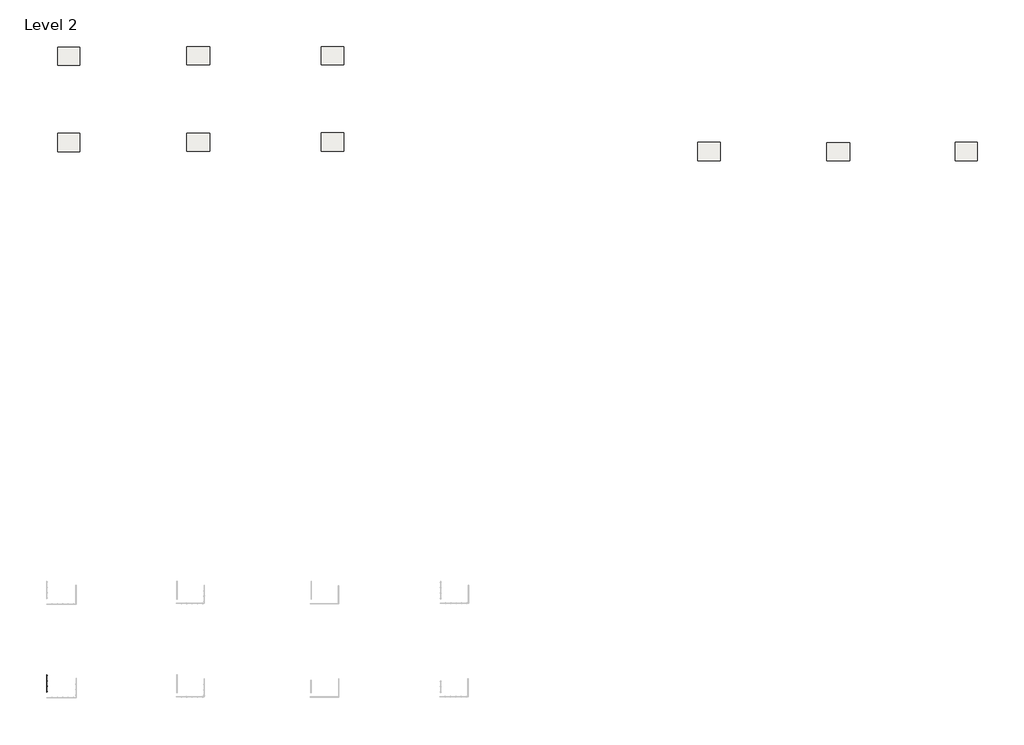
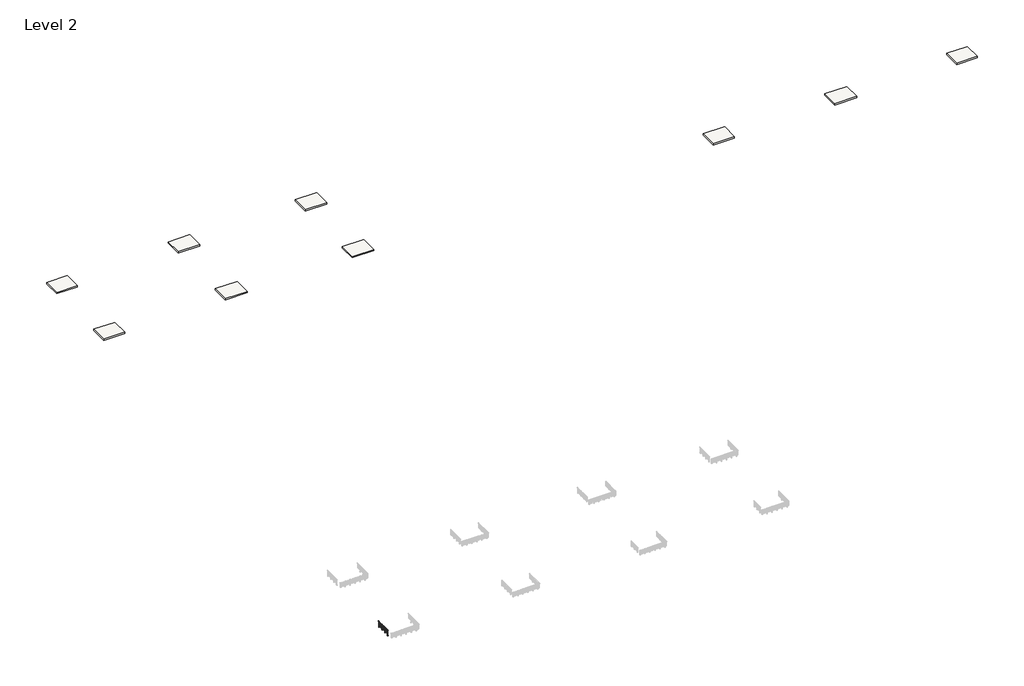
# One storey, part 1 of 31: 9 slabs, 1 railing.
"""IFC4 building model written with IfcOpenShell, lengths in millimetres."""

from ifc_helpers import new_model, si_unit, point, frame, frame_2d, origin, place, context, project, spatial, polyline, circle_curve, trimmed, segment, composite_curve, outline, extrude, element, save
from ifc_brep_helpers import plane_surface, cylinder_surface, revolved_surface, advanced_brep

model = new_model("IFC4")

# Units and contexts
model_context = context("Model", 3, world=origin())
ifc_project = project(units=[si_unit("LENGTHUNIT", "METRE", prefix="MILLI")], contexts=[model_context])

# Site, building, storey
site = spatial("IfcSite", under=ifc_project)
building = spatial("IfcBuilding", under=site)
storey = spatial("IfcBuildingStorey", under=building, Name="Level 2", Elevation=3048.0)

# Railing
placement = place(None, origin())
element("IfcRailing", 1, ObjectType="VIVA-BLADE-Multiline-Fascia Mount-Straight", at=placement, inside=storey, context=model_context, shape_type="SolidModel", body=[
    advanced_brep(
    [(-9214.9164794, -69074.577518, 4102.1), (-9265.7164794, -69074.577518, 4102.1), (-9214.9164794, -68972.977518, 4102.1), (-9265.7164794, -68972.977518, 4102.1), (-9214.9164794, -65884.2426165, 4102.1), (-9265.7164794, -65884.2426165, 4102.1), (-9214.9164794, -65782.6426165, 4102.1), (-9265.7164794, -65782.6426165, 4102.1)],
    [
        (0, 1, circle_curve(frame((-9240.3164794, -69074.577518, 4102.1), z_axis=(0.0, -1.0, 0.0), x_axis=(-1.0, 0.0, 0.0)), 25.4)),
        (1, 0, circle_curve(frame((-9240.3164794, -69074.577518, 4102.1), z_axis=(0.0, -1.0, 0.0), x_axis=(-1.0, 0.0, 0.0)), 25.4)),
        (0, 2),
        (2, 3, circle_curve(frame((-9240.3164794, -68972.977518, 4102.1), z_axis=(0.0, -1.0, 0.0), x_axis=(-1.0, 0.0, 0.0)), 25.4)),
        (3, 1),
        (3, 2, circle_curve(frame((-9240.3164794, -68972.977518, 4102.1), z_axis=(0.0, -1.0, 0.0), x_axis=(-1.0, 0.0, 0.0)), 25.4)),
        (2, 4),
        (4, 5, circle_curve(frame((-9240.3164794, -65884.2426165, 4102.1), z_axis=(0.0, -1.0, 0.0), x_axis=(-1.0, 0.0, 0.0)), 25.4)),
        (5, 3),
        (5, 4, circle_curve(frame((-9240.3164794, -65884.2426165, 4102.1), z_axis=(0.0, -1.0, 0.0), x_axis=(-1.0, 0.0, 0.0)), 25.4)),
        (6, 7, circle_curve(frame((-9240.3164794, -65782.6426165, 4102.1), z_axis=(0.0, 1.0, 0.0), x_axis=(-1.0, 0.0, 0.0)), 25.4)),
        (7, 6, circle_curve(frame((-9240.3164794, -65782.6426165, 4102.1), z_axis=(0.0, 1.0, 0.0), x_axis=(-1.0, 0.0, 0.0)), 25.4)),
        (4, 6),
        (7, 5),
    ],
    [
        plane_surface(frame((-9240.3164794, -69074.577518, 4127.5), z_axis=(0.0, -1.0, 0.0), x_axis=(0.0, 0.0, 1.0))),
        cylinder_surface(frame((-9240.3164794, -69074.577518, 4102.1), z_axis=(0.0, -1.0, 0.0), x_axis=(-1.0, 0.0, 0.0)), 25.4),
        cylinder_surface(frame((-9240.3164794, -68972.977518, 4102.1), z_axis=(0.0, -1.0, 0.0), x_axis=(-1.0, 0.0, 0.0)), 25.4),
        plane_surface(frame((-9240.3164794, -65782.6426165, 4127.5), z_axis=(0.0, 1.0, 0.0), x_axis=(0.0, 0.0, 1.0))),
        cylinder_surface(frame((-9240.3164794, -65884.2426165, 4102.1), z_axis=(0.0, -1.0, 0.0), x_axis=(-1.0, 0.0, 0.0)), 25.4),
    ],
    [
        (0, [[1, 2]]),
        (1, [[-1, 3, 4, 5]]),
        (1, [[-2, -5, 6, -3]]),
        (2, [[-4, 7, 8, 9]]),
        (2, [[-6, -9, 10, -7]]),
        (3, [[11, 12]]),
        (4, [[-8, 13, -12, 14]]),
        (4, [[-10, -14, -11, -13]]),
    ],
),
    extrude(outline(composite_curve([segment(trimmed(circle_curve(frame_2d((3981.45, -9240.3164794)), 6.35), [point((3981.45, -9233.9664794))], [point((3981.45, -9246.6664794))], False, "CARTESIAN"), True, "CONTINUOUS"), segment(trimmed(circle_curve(frame_2d((3981.45, -9240.3164794)), 6.35), [point((3981.45, -9246.6664794))], [point((3981.45, -9233.9664794))], False, "CARTESIAN"), True, "CONTINUOUS")], self_intersect=False)), frame((0.0, -68972.977518, 0.0), z_axis=(0.0, 1.0, 0.0), x_axis=(0.0, 0.0, 1.0)), (0.0, 0.0, 1.0), 3088.7349014),
    extrude(outline(composite_curve([segment(trimmed(circle_curve(frame_2d((3898.9, -9240.3164794)), 6.35), [point((3898.9, -9233.9664794))], [point((3898.9, -9246.6664794))], False, "CARTESIAN"), True, "CONTINUOUS"), segment(trimmed(circle_curve(frame_2d((3898.9, -9240.3164794)), 6.35), [point((3898.9, -9246.6664794))], [point((3898.9, -9233.9664794))], False, "CARTESIAN"), True, "CONTINUOUS")], self_intersect=False)), frame((0.0, -68972.977518, 0.0), z_axis=(0.0, 1.0, 0.0), x_axis=(0.0, 0.0, 1.0)), (0.0, 0.0, 1.0), 3088.7349014),
    extrude(outline(composite_curve([segment(trimmed(circle_curve(frame_2d((3816.35, -9240.3164794)), 6.35), [point((3816.35, -9233.9664794))], [point((3816.35, -9246.6664794))], False, "CARTESIAN"), True, "CONTINUOUS"), segment(trimmed(circle_curve(frame_2d((3816.35, -9240.3164794)), 6.35), [point((3816.35, -9246.6664794))], [point((3816.35, -9233.9664794))], False, "CARTESIAN"), True, "CONTINUOUS")], self_intersect=False)), frame((0.0, -68972.977518, 0.0), z_axis=(0.0, 1.0, 0.0), x_axis=(0.0, 0.0, 1.0)), (0.0, 0.0, 1.0), 3088.7349014),
    extrude(outline(composite_curve([segment(trimmed(circle_curve(frame_2d((3733.8, -9240.3164794)), 6.35), [point((3733.8, -9233.9664794))], [point((3733.8, -9246.6664794))], False, "CARTESIAN"), True, "CONTINUOUS"), segment(trimmed(circle_curve(frame_2d((3733.8, -9240.3164794)), 6.35), [point((3733.8, -9246.6664794))], [point((3733.8, -9233.9664794))], False, "CARTESIAN"), True, "CONTINUOUS")], self_intersect=False)), frame((0.0, -68972.977518, 0.0), z_axis=(0.0, 1.0, 0.0), x_axis=(0.0, 0.0, 1.0)), (0.0, 0.0, 1.0), 3088.7349014),
    extrude(outline(composite_curve([segment(trimmed(circle_curve(frame_2d((3651.25, -9240.3164794)), 6.35), [point((3651.25, -9233.9664794))], [point((3651.25, -9246.6664794))], False, "CARTESIAN"), True, "CONTINUOUS"), segment(trimmed(circle_curve(frame_2d((3651.25, -9240.3164794)), 6.35), [point((3651.25, -9246.6664794))], [point((3651.25, -9233.9664794))], False, "CARTESIAN"), True, "CONTINUOUS")], self_intersect=False)), frame((0.0, -68972.977518, 0.0), z_axis=(0.0, 1.0, 0.0), x_axis=(0.0, 0.0, 1.0)), (0.0, 0.0, 1.0), 3088.7349014),
    extrude(outline(composite_curve([segment(trimmed(circle_curve(frame_2d((3568.7, -9240.3164794)), 6.35), [point((3568.7, -9233.9664794))], [point((3568.7, -9246.6664794))], False, "CARTESIAN"), True, "CONTINUOUS"), segment(trimmed(circle_curve(frame_2d((3568.7, -9240.3164794)), 6.35), [point((3568.7, -9246.6664794))], [point((3568.7, -9233.9664794))], False, "CARTESIAN"), True, "CONTINUOUS")], self_intersect=False)), frame((0.0, -68972.977518, 0.0), z_axis=(0.0, 1.0, 0.0), x_axis=(0.0, 0.0, 1.0)), (0.0, 0.0, 1.0), 3088.7349014),
    extrude(outline(composite_curve([segment(trimmed(circle_curve(frame_2d((3486.15, -9240.3164794)), 6.35), [point((3486.15, -9233.9664794))], [point((3486.15, -9246.6664794))], False, "CARTESIAN"), True, "CONTINUOUS"), segment(trimmed(circle_curve(frame_2d((3486.15, -9240.3164794)), 6.35), [point((3486.15, -9246.6664794))], [point((3486.15, -9233.9664794))], False, "CARTESIAN"), True, "CONTINUOUS")], self_intersect=False)), frame((0.0, -68972.977518, 0.0), z_axis=(0.0, 1.0, 0.0), x_axis=(0.0, 0.0, 1.0)), (0.0, 0.0, 1.0), 3088.7349014),
    extrude(outline(composite_curve([segment(trimmed(circle_curve(frame_2d((3403.6, -9240.3164794)), 6.35), [point((3403.6, -9233.9664794))], [point((3403.6, -9246.6664794))], False, "CARTESIAN"), True, "CONTINUOUS"), segment(trimmed(circle_curve(frame_2d((3403.6, -9240.3164794)), 6.35), [point((3403.6, -9246.6664794))], [point((3403.6, -9233.9664794))], False, "CARTESIAN"), True, "CONTINUOUS")], self_intersect=False)), frame((0.0, -68972.977518, 0.0), z_axis=(0.0, 1.0, 0.0), x_axis=(0.0, 0.0, 1.0)), (0.0, 0.0, 1.0), 3088.7349014),
    extrude(outline(composite_curve([segment(trimmed(circle_curve(frame_2d((3321.05, -9240.3164794)), 6.35), [point((3321.05, -9233.9664794))], [point((3321.05, -9246.6664794))], False, "CARTESIAN"), True, "CONTINUOUS"), segment(trimmed(circle_curve(frame_2d((3321.05, -9240.3164794)), 6.35), [point((3321.05, -9246.6664794))], [point((3321.05, -9233.9664794))], False, "CARTESIAN"), True, "CONTINUOUS")], self_intersect=False)), frame((0.0, -68972.977518, 0.0), z_axis=(0.0, 1.0, 0.0), x_axis=(0.0, 0.0, 1.0)), (0.0, 0.0, 1.0), 3088.7349014),
    extrude(outline(composite_curve([segment(trimmed(circle_curve(frame_2d((3238.5, -9240.3164794)), 6.35), [point((3238.5, -9233.9664794))], [point((3238.5, -9246.6664794))], False, "CARTESIAN"), True, "CONTINUOUS"), segment(trimmed(circle_curve(frame_2d((3238.5, -9240.3164794)), 6.35), [point((3238.5, -9246.6664794))], [point((3238.5, -9233.9664794))], False, "CARTESIAN"), True, "CONTINUOUS")], self_intersect=False)), frame((0.0, -68972.977518, 0.0), z_axis=(0.0, 1.0, 0.0), x_axis=(0.0, 0.0, 1.0)), (0.0, 0.0, 1.0), 3088.7349014),
    extrude(outline(composite_curve([segment(trimmed(circle_curve(frame_2d((3155.95, -9240.3164794)), 6.35), [point((3155.95, -9233.9664794))], [point((3155.95, -9246.6664794))], False, "CARTESIAN"), True, "CONTINUOUS"), segment(trimmed(circle_curve(frame_2d((3155.95, -9240.3164794)), 6.35), [point((3155.95, -9246.6664794))], [point((3155.95, -9233.9664794))], False, "CARTESIAN"), True, "CONTINUOUS")], self_intersect=False)), frame((0.0, -68972.977518, 0.0), z_axis=(0.0, 1.0, 0.0), x_axis=(0.0, 0.0, 1.0)), (0.0, 0.0, 1.0), 3088.7349014),
    extrude(outline(polyline([(2901.95, -9265.7190073), (2901.95, -9183.1662737), (2952.75, -9183.1662737), (2952.75, -9214.9190073), (3048.0, -9214.9190073), (3048.0, -9265.7190073), (2901.95, -9265.7190073)])), frame((0.0, -65931.684903, 0.0), z_axis=(0.0, 1.0, 0.0), x_axis=(0.0, 0.0, 1.0)), (0.0, 0.0, 1.0), 8.0248357),
    extrude(outline(polyline([(3048.0, -9214.9190073), (3048.0, -9265.7190073), (2901.95, -9265.7190073), (2901.95, -9183.1662737), (2952.75, -9183.1662737), (2952.75, -9214.9190073), (3048.0, -9214.9190073)])), frame((0.0, -65885.5601053, 0.0), z_axis=(0.0, 1.0, 0.0), x_axis=(0.0, 0.0, 1.0)), (0.0, 0.0, 1.0), 8.001),
    advanced_brep(
    [(-9227.5563557, -65859.3726673, 4080.0967655), (-9223.7204583, -65859.3726673, 4075.707533), (-9255.2373506, -65859.3726673, 4075.1267745), (-9252.4284203, -65859.3726673, 4079.9535285), (-9227.5563557, -65949.8474673, 4080.0967655), (-9252.5153924, -65949.8474673, 4080.0018447), (-9255.351144, -65949.8474673, 4075.1893964), (-9223.7204583, -65949.8474673, 4075.707533)],
    [
        (0, 1, circle_curve(frame((-9226.0087981, -65859.3726673, 4077.5784521), z_axis=(0.0, 1.0, 0.0), x_axis=(1.0, 0.0, 0.0)), 2.9558141)),
        (1, 2, circle_curve(frame((-9239.9866956, -65859.3726673, 4102.9742164), z_axis=(0.0, 1.0, 0.0), x_axis=(1.0, 0.0, 0.0)), 31.75)),
        (2, 3, circle_curve(frame((-9253.7600455, -65859.3726673, 4077.4993599), z_axis=(0.0, 1.0, 0.0), x_axis=(1.0, 0.0, 0.0)), 2.7949225)),
        (3, 0, circle_curve(frame((-9240.1201586, -65859.3726673, 4102.2115898), z_axis=(0.0, -1.0, 0.0), x_axis=(1.0, 0.0, 0.0)), 25.4345159)),
        (4, 5, circle_curve(frame((-9240.1201586, -65949.8474673, 4102.2115898), z_axis=(0.0, 1.0, 0.0), x_axis=(1.0, 0.0, 0.0)), 25.4345159)),
        (5, 6, circle_curve(frame((-9253.7600455, -65949.8474673, 4077.4993599), z_axis=(0.0, -1.0, 0.0), x_axis=(1.0, 0.0, 0.0)), 2.7949225)),
        (6, 7, circle_curve(frame((-9239.9866956, -65949.8474673, 4102.9742164), z_axis=(0.0, -1.0, 0.0), x_axis=(1.0, 0.0, 0.0)), 31.75)),
        (7, 4, circle_curve(frame((-9226.0087981, -65949.8474673, 4077.5784521), z_axis=(0.0, -1.0, 0.0), x_axis=(1.0, 0.0, 0.0)), 2.9558141)),
        (3, 5),
        (4, 0),
        (2, 6),
        (1, 7),
    ],
    [
        plane_surface(frame((-9214.6856428, -65859.3726673, 4102.2115898), z_axis=(0.0, 1.0, 0.0), x_axis=(0.0, 0.0, -1.0))),
        plane_surface(frame((-9214.6856428, -65949.8474673, 4102.2115898), z_axis=(0.0, -1.0, 0.0), x_axis=(0.0, 0.0, 1.0))),
        revolved_surface(polyline([(-9214.6856427, -65949.8474673, 4102.2115898), (-9214.6856427, -65859.3726673, 4102.2115898)]), (-9240.1201586, -65949.8474673, 4102.2115898), (0.0, -1.0, 0.0)),
        cylinder_surface(frame((-9253.7600455, -65949.8474673, 4077.4993599), z_axis=(0.0, 1.0, 0.0), x_axis=(1.0, 0.0, 0.0)), 2.7949225),
        cylinder_surface(frame((-9239.9866956, -65949.8474673, 4102.9742164), z_axis=(0.0, 1.0, 0.0), x_axis=(1.0, 0.0, 0.0)), 31.75),
        cylinder_surface(frame((-9226.0087981, -65949.8474673, 4077.5784521), z_axis=(0.0, 1.0, 0.0), x_axis=(1.0, 0.0, 0.0)), 2.9558141),
    ],
    [
        (0, [[1, 2, 3, 4]]),
        (1, [[5, 6, 7, 8]]),
        (2, [[9, -5, 10, -4]]),
        (3, [[11, -6, -9, -3]]),
        (4, [[12, -7, -11, -2]]),
        (5, [[-10, -8, -12, -1]]),
    ],
),
    extrude(outline(polyline([(-9164.1162737, -65841.1220041), (-9164.1162737, -65968.1220041), (-9173.6412737, -65968.1220041), (-9173.6412737, -65841.1220041), (-9164.1162737, -65841.1220041)])), frame((0.0, 0.0, 2863.85), z_axis=(0.0, 0.0, 1.0), x_axis=(1.0, 0.0, 0.0)), (0.0, 0.0, 1.0), 127.0),
    extrude(outline(composite_curve([segment(polyline([(-65891.9100673, 4062.4125), (-65917.3100673, 4062.4125)]), True, "CONTINUOUS"), segment(trimmed(circle_curve(frame_2d((-65931.6779821, 4062.4125)), 14.3679149), [point((-65917.3100673, 4062.4125))], [point((-65931.6779821, 4076.7804149))], True, "CARTESIAN"), True, "CONTINUOUS"), segment(polyline([(-65931.6779821, 4076.7804149), (-65877.5421524, 4076.7804149)]), True, "CONTINUOUS"), segment(trimmed(circle_curve(frame_2d((-65877.5421524, 4062.4125)), 14.3679149), [point((-65877.5421524, 4076.7804149))], [point((-65891.9100673, 4062.4125))], True, "CARTESIAN"), True, "CONTINUOUS")], self_intersect=False)), frame((-9242.8564794, 0.0, 0.0), z_axis=(1.0, 0.0, 0.0), x_axis=(0.0, 1.0, 0.0)), (0.0, 0.0, 1.0), 5.08),
    extrude(outline(polyline([(-9214.9166827, -65931.684903), (-9265.7190073, -65931.684903), (-9265.7190073, -65923.6600673), (-9214.9166827, -65923.6600673), (-9214.9166827, -65931.684903)])), frame((0.0, 0.0, 3048.0), z_axis=(0.0, 0.0, 1.0), x_axis=(1.0, 0.0, 0.0)), (0.0, 0.0, 1.0), 996.95),
    extrude(outline(polyline([(-65968.1220041, 2863.85), (-65968.1220041, 2990.85), (-65841.1220041, 2990.85), (-65841.1220041, 2863.85), (-65968.1220041, 2863.85)]), holes=[composite_curve([segment(trimmed(circle_curve(frame_2d((-65949.0720041, 2971.8)), 4.7068371), [point((-65944.365167, 2971.8))], [point((-65953.7788412, 2971.8))], True, "CARTESIAN"), True, "CONTINUOUS"), segment(trimmed(circle_curve(frame_2d((-65949.0720041, 2971.8)), 4.7068371), [point((-65953.7788412, 2971.8))], [point((-65944.365167, 2971.8))], True, "CARTESIAN"), True, "CONTINUOUS")], self_intersect=False), composite_curve([segment(trimmed(circle_curve(frame_2d((-65860.1720041, 2971.8)), 4.7068371), [point((-65855.465167, 2971.8))], [point((-65864.8788412, 2971.8))], True, "CARTESIAN"), True, "CONTINUOUS"), segment(trimmed(circle_curve(frame_2d((-65860.1720041, 2971.8)), 4.7068371), [point((-65864.8788412, 2971.8))], [point((-65855.465167, 2971.8))], True, "CARTESIAN"), True, "CONTINUOUS")], self_intersect=False), composite_curve([segment(trimmed(circle_curve(frame_2d((-65860.1720041, 2882.9)), 4.7068371), [point((-65855.465167, 2882.9))], [point((-65864.8788412, 2882.9))], True, "CARTESIAN"), True, "CONTINUOUS"), segment(trimmed(circle_curve(frame_2d((-65860.1720041, 2882.9)), 4.7068371), [point((-65864.8788412, 2882.9))], [point((-65855.465167, 2882.9))], True, "CARTESIAN"), True, "CONTINUOUS")], self_intersect=False), composite_curve([segment(trimmed(circle_curve(frame_2d((-65949.0720041, 2882.9)), 4.7068371), [point((-65944.365167, 2882.9))], [point((-65953.7788412, 2882.9))], True, "CARTESIAN"), True, "CONTINUOUS"), segment(trimmed(circle_curve(frame_2d((-65949.0720041, 2882.9)), 4.7068371), [point((-65953.7788412, 2882.9))], [point((-65944.365167, 2882.9))], True, "CARTESIAN"), True, "CONTINUOUS")], self_intersect=False)]), frame((-9183.1662737, 0.0, 0.0), z_axis=(1.0, 0.0, 0.0), x_axis=(0.0, 1.0, 0.0)), (0.0, 0.0, 1.0), 9.525),
    extrude(outline(composite_curve([segment(trimmed(circle_curve(frame_2d((4034.0416929, -9253.0189563)), 8.89), [point((4034.0416929, -9261.9089563))], [point((4034.0416929, -9244.1289563))], False, "CARTESIAN"), True, "CONTINUOUS"), segment(trimmed(circle_curve(frame_2d((4034.0416929, -9253.0189563)), 8.89), [point((4034.0416929, -9244.1289563))], [point((4034.0416929, -9261.9089563))], False, "CARTESIAN"), True, "CONTINUOUS")], self_intersect=False)), frame((0.0, -65936.3600673, 0.0), z_axis=(0.0, 1.0, 0.0), x_axis=(0.0, 0.0, 1.0)), (0.0, 0.0, 1.0), 63.4880631),
    extrude(outline(composite_curve([segment(trimmed(circle_curve(frame_2d((4034.0416929, -9227.6190583)), 8.89), [point((4034.0416929, -9236.5090583))], [point((4034.0416929, -9218.7290583))], False, "CARTESIAN"), True, "CONTINUOUS"), segment(trimmed(circle_curve(frame_2d((4034.0416929, -9227.6190583)), 8.89), [point((4034.0416929, -9218.7290583))], [point((4034.0416929, -9236.5090583))], False, "CARTESIAN"), True, "CONTINUOUS")], self_intersect=False)), frame((0.0, -65936.3600673, 0.0), z_axis=(0.0, 1.0, 0.0), x_axis=(0.0, 0.0, 1.0)), (0.0, 0.0, 1.0), 63.4880631),
    extrude(outline(polyline([(-65923.6600673, 4022.7123), (-65923.6600673, 4056.0625), (-65917.3100673, 4062.4125), (-65891.9100673, 4062.4125), (-65885.5600673, 4056.0625), (-65885.5600673, 4022.7123), (-65923.6600673, 4022.7123)])), frame((-9265.7190073, 0.0, 0.0), z_axis=(1.0, 0.0, 0.0), x_axis=(0.0, 1.0, 0.0)), (0.0, 0.0, 1.0), 50.8025279),
    extrude(outline(polyline([(-9214.9166827, -65885.5601053), (-9265.7190073, -65885.5601053), (-9265.7190073, -65877.5591053), (-9214.9166827, -65877.5591053), (-9214.9166827, -65885.5601053)])), frame((0.0, 0.0, 3048.0), z_axis=(0.0, 0.0, 1.0), x_axis=(1.0, 0.0, 0.0)), (0.0, 0.0, 1.0), 996.95),
    extrude(outline(polyline([(2901.95, -9265.7190073), (2901.95, -9183.1662737), (2952.75, -9183.1662737), (2952.75, -9214.9190073), (3048.0, -9214.9190073), (3048.0, -9265.7190073), (2901.95, -9265.7190073)])), frame((0.0, -66947.684903, 0.0), z_axis=(0.0, 1.0, 0.0), x_axis=(0.0, 0.0, 1.0)), (0.0, 0.0, 1.0), 8.0248357),
    extrude(outline(polyline([(3048.0, -9214.9190073), (3048.0, -9265.7190073), (2901.95, -9265.7190073), (2901.95, -9183.1662737), (2952.75, -9183.1662737), (2952.75, -9214.9190073), (3048.0, -9214.9190073)])), frame((0.0, -66901.5601053, 0.0), z_axis=(0.0, 1.0, 0.0), x_axis=(0.0, 0.0, 1.0)), (0.0, 0.0, 1.0), 8.001),
    advanced_brep(
    [(-9227.5563557, -66875.3726673, 4080.0967655), (-9223.7204583, -66875.3726673, 4075.707533), (-9255.2373506, -66875.3726673, 4075.1267745), (-9252.4284203, -66875.3726673, 4079.9535285), (-9227.5563557, -66965.8474673, 4080.0967655), (-9252.5153924, -66965.8474673, 4080.0018447), (-9255.351144, -66965.8474673, 4075.1893964), (-9223.7204583, -66965.8474673, 4075.707533)],
    [
        (0, 1, circle_curve(frame((-9226.0087981, -66875.3726673, 4077.5784521), z_axis=(0.0, 1.0, 0.0), x_axis=(1.0, 0.0, 0.0)), 2.9558141)),
        (1, 2, circle_curve(frame((-9239.9866956, -66875.3726673, 4102.9742164), z_axis=(0.0, 1.0, 0.0), x_axis=(1.0, 0.0, 0.0)), 31.75)),
        (2, 3, circle_curve(frame((-9253.7600455, -66875.3726673, 4077.4993599), z_axis=(0.0, 1.0, 0.0), x_axis=(1.0, 0.0, 0.0)), 2.7949225)),
        (3, 0, circle_curve(frame((-9240.1201586, -66875.3726673, 4102.2115898), z_axis=(0.0, -1.0, 0.0), x_axis=(1.0, 0.0, 0.0)), 25.4345159)),
        (4, 5, circle_curve(frame((-9240.1201586, -66965.8474673, 4102.2115898), z_axis=(0.0, 1.0, 0.0), x_axis=(1.0, 0.0, 0.0)), 25.4345159)),
        (5, 6, circle_curve(frame((-9253.7600455, -66965.8474673, 4077.4993599), z_axis=(0.0, -1.0, 0.0), x_axis=(1.0, 0.0, 0.0)), 2.7949225)),
        (6, 7, circle_curve(frame((-9239.9866956, -66965.8474673, 4102.9742164), z_axis=(0.0, -1.0, 0.0), x_axis=(1.0, 0.0, 0.0)), 31.75)),
        (7, 4, circle_curve(frame((-9226.0087981, -66965.8474673, 4077.5784521), z_axis=(0.0, -1.0, 0.0), x_axis=(1.0, 0.0, 0.0)), 2.9558141)),
        (3, 5),
        (4, 0),
        (2, 6),
        (1, 7),
    ],
    [
        plane_surface(frame((-9214.6856428, -66875.3726673, 4102.2115898), z_axis=(0.0, 1.0, 0.0), x_axis=(0.0, 0.0, -1.0))),
        plane_surface(frame((-9214.6856428, -66965.8474673, 4102.2115898), z_axis=(0.0, -1.0, 0.0), x_axis=(0.0, 0.0, 1.0))),
        revolved_surface(polyline([(-9214.6856427, -66965.8474673, 4102.2115898), (-9214.6856427, -66875.3726673, 4102.2115898)]), (-9240.1201586, -66965.8474673, 4102.2115898), (0.0, -1.0, 0.0)),
        cylinder_surface(frame((-9253.7600455, -66965.8474673, 4077.4993599), z_axis=(0.0, 1.0, 0.0), x_axis=(1.0, 0.0, 0.0)), 2.7949225),
        cylinder_surface(frame((-9239.9866956, -66965.8474673, 4102.9742164), z_axis=(0.0, 1.0, 0.0), x_axis=(1.0, 0.0, 0.0)), 31.75),
        cylinder_surface(frame((-9226.0087981, -66965.8474673, 4077.5784521), z_axis=(0.0, 1.0, 0.0), x_axis=(1.0, 0.0, 0.0)), 2.9558141),
    ],
    [
        (0, [[1, 2, 3, 4]]),
        (1, [[5, 6, 7, 8]]),
        (2, [[9, -5, 10, -4]]),
        (3, [[11, -6, -9, -3]]),
        (4, [[12, -7, -11, -2]]),
        (5, [[-10, -8, -12, -1]]),
    ],
),
    extrude(outline(polyline([(-9164.1162737, -66857.1220041), (-9164.1162737, -66984.1220041), (-9173.6412737, -66984.1220041), (-9173.6412737, -66857.1220041), (-9164.1162737, -66857.1220041)])), frame((0.0, 0.0, 2863.85), z_axis=(0.0, 0.0, 1.0), x_axis=(1.0, 0.0, 0.0)), (0.0, 0.0, 1.0), 127.0),
    extrude(outline(composite_curve([segment(polyline([(-66907.9100673, 4062.4125), (-66933.3100673, 4062.4125)]), True, "CONTINUOUS"), segment(trimmed(circle_curve(frame_2d((-66947.6779821, 4062.4125)), 14.3679149), [point((-66933.3100673, 4062.4125))], [point((-66947.6779821, 4076.7804149))], True, "CARTESIAN"), True, "CONTINUOUS"), segment(polyline([(-66947.6779821, 4076.7804149), (-66893.5421524, 4076.7804149)]), True, "CONTINUOUS"), segment(trimmed(circle_curve(frame_2d((-66893.5421524, 4062.4125)), 14.3679149), [point((-66893.5421524, 4076.7804149))], [point((-66907.9100673, 4062.4125))], True, "CARTESIAN"), True, "CONTINUOUS")], self_intersect=False)), frame((-9242.8564794, 0.0, 0.0), z_axis=(1.0, 0.0, 0.0), x_axis=(0.0, 1.0, 0.0)), (0.0, 0.0, 1.0), 5.08),
    extrude(outline(polyline([(-9214.9166827, -66947.684903), (-9265.7190073, -66947.684903), (-9265.7190073, -66939.6600673), (-9214.9166827, -66939.6600673), (-9214.9166827, -66947.684903)])), frame((0.0, 0.0, 3048.0), z_axis=(0.0, 0.0, 1.0), x_axis=(1.0, 0.0, 0.0)), (0.0, 0.0, 1.0), 996.95),
    extrude(outline(polyline([(-66984.1220041, 2863.85), (-66984.1220041, 2990.85), (-66857.1220041, 2990.85), (-66857.1220041, 2863.85), (-66984.1220041, 2863.85)]), holes=[composite_curve([segment(trimmed(circle_curve(frame_2d((-66965.0720041, 2971.8)), 4.7068371), [point((-66960.365167, 2971.8))], [point((-66969.7788412, 2971.8))], True, "CARTESIAN"), True, "CONTINUOUS"), segment(trimmed(circle_curve(frame_2d((-66965.0720041, 2971.8)), 4.7068371), [point((-66969.7788412, 2971.8))], [point((-66960.365167, 2971.8))], True, "CARTESIAN"), True, "CONTINUOUS")], self_intersect=False), composite_curve([segment(trimmed(circle_curve(frame_2d((-66876.1720041, 2971.8)), 4.7068371), [point((-66871.465167, 2971.8))], [point((-66880.8788412, 2971.8))], True, "CARTESIAN"), True, "CONTINUOUS"), segment(trimmed(circle_curve(frame_2d((-66876.1720041, 2971.8)), 4.7068371), [point((-66880.8788412, 2971.8))], [point((-66871.465167, 2971.8))], True, "CARTESIAN"), True, "CONTINUOUS")], self_intersect=False), composite_curve([segment(trimmed(circle_curve(frame_2d((-66876.1720041, 2882.9)), 4.7068371), [point((-66871.465167, 2882.9))], [point((-66880.8788412, 2882.9))], True, "CARTESIAN"), True, "CONTINUOUS"), segment(trimmed(circle_curve(frame_2d((-66876.1720041, 2882.9)), 4.7068371), [point((-66880.8788412, 2882.9))], [point((-66871.465167, 2882.9))], True, "CARTESIAN"), True, "CONTINUOUS")], self_intersect=False), composite_curve([segment(trimmed(circle_curve(frame_2d((-66965.0720041, 2882.9)), 4.7068371), [point((-66960.365167, 2882.9))], [point((-66969.7788412, 2882.9))], True, "CARTESIAN"), True, "CONTINUOUS"), segment(trimmed(circle_curve(frame_2d((-66965.0720041, 2882.9)), 4.7068371), [point((-66969.7788412, 2882.9))], [point((-66960.365167, 2882.9))], True, "CARTESIAN"), True, "CONTINUOUS")], self_intersect=False)]), frame((-9183.1662737, 0.0, 0.0), z_axis=(1.0, 0.0, 0.0), x_axis=(0.0, 1.0, 0.0)), (0.0, 0.0, 1.0), 9.525),
    extrude(outline(composite_curve([segment(trimmed(circle_curve(frame_2d((4034.0416929, -9253.0189563)), 8.89), [point((4034.0416929, -9261.9089563))], [point((4034.0416929, -9244.1289563))], False, "CARTESIAN"), True, "CONTINUOUS"), segment(trimmed(circle_curve(frame_2d((4034.0416929, -9253.0189563)), 8.89), [point((4034.0416929, -9244.1289563))], [point((4034.0416929, -9261.9089563))], False, "CARTESIAN"), True, "CONTINUOUS")], self_intersect=False)), frame((0.0, -66952.3600673, 0.0), z_axis=(0.0, 1.0, 0.0), x_axis=(0.0, 0.0, 1.0)), (0.0, 0.0, 1.0), 63.4880631),
    extrude(outline(composite_curve([segment(trimmed(circle_curve(frame_2d((4034.0416929, -9227.6190583)), 8.89), [point((4034.0416929, -9236.5090583))], [point((4034.0416929, -9218.7290583))], False, "CARTESIAN"), True, "CONTINUOUS"), segment(trimmed(circle_curve(frame_2d((4034.0416929, -9227.6190583)), 8.89), [point((4034.0416929, -9218.7290583))], [point((4034.0416929, -9236.5090583))], False, "CARTESIAN"), True, "CONTINUOUS")], self_intersect=False)), frame((0.0, -66952.3600673, 0.0), z_axis=(0.0, 1.0, 0.0), x_axis=(0.0, 0.0, 1.0)), (0.0, 0.0, 1.0), 63.4880631),
    extrude(outline(polyline([(-66939.6600673, 4022.7123), (-66939.6600673, 4056.0625), (-66933.3100673, 4062.4125), (-66907.9100673, 4062.4125), (-66901.5600673, 4056.0625), (-66901.5600673, 4022.7123), (-66939.6600673, 4022.7123)])), frame((-9265.7190073, 0.0, 0.0), z_axis=(1.0, 0.0, 0.0), x_axis=(0.0, 1.0, 0.0)), (0.0, 0.0, 1.0), 50.8025279),
    extrude(outline(polyline([(-9214.9166827, -66901.5601053), (-9265.7190073, -66901.5601053), (-9265.7190073, -66893.5591053), (-9214.9166827, -66893.5591053), (-9214.9166827, -66901.5601053)])), frame((0.0, 0.0, 3048.0), z_axis=(0.0, 0.0, 1.0), x_axis=(1.0, 0.0, 0.0)), (0.0, 0.0, 1.0), 996.95),
    extrude(outline(polyline([(2901.95, -9265.7190073), (2901.95, -9183.1662737), (2952.75, -9183.1662737), (2952.75, -9214.9190073), (3048.0, -9214.9190073), (3048.0, -9265.7190073), (2901.95, -9265.7190073)])), frame((0.0, -67963.684903, 0.0), z_axis=(0.0, 1.0, 0.0), x_axis=(0.0, 0.0, 1.0)), (0.0, 0.0, 1.0), 8.0248357),
    extrude(outline(polyline([(3048.0, -9214.9190073), (3048.0, -9265.7190073), (2901.95, -9265.7190073), (2901.95, -9183.1662737), (2952.75, -9183.1662737), (2952.75, -9214.9190073), (3048.0, -9214.9190073)])), frame((0.0, -67917.5601053, 0.0), z_axis=(0.0, 1.0, 0.0), x_axis=(0.0, 0.0, 1.0)), (0.0, 0.0, 1.0), 8.001),
    advanced_brep(
    [(-9227.5563557, -67891.3726673, 4080.0967655), (-9223.7204583, -67891.3726673, 4075.707533), (-9255.2373506, -67891.3726673, 4075.1267745), (-9252.4284203, -67891.3726673, 4079.9535285), (-9227.5563557, -67981.8474673, 4080.0967655), (-9252.5153924, -67981.8474673, 4080.0018447), (-9255.351144, -67981.8474673, 4075.1893964), (-9223.7204583, -67981.8474673, 4075.707533)],
    [
        (0, 1, circle_curve(frame((-9226.0087981, -67891.3726673, 4077.5784521), z_axis=(0.0, 1.0, 0.0), x_axis=(1.0, 0.0, 0.0)), 2.9558141)),
        (1, 2, circle_curve(frame((-9239.9866956, -67891.3726673, 4102.9742164), z_axis=(0.0, 1.0, 0.0), x_axis=(1.0, 0.0, 0.0)), 31.75)),
        (2, 3, circle_curve(frame((-9253.7600455, -67891.3726673, 4077.4993599), z_axis=(0.0, 1.0, 0.0), x_axis=(1.0, 0.0, 0.0)), 2.7949225)),
        (3, 0, circle_curve(frame((-9240.1201586, -67891.3726673, 4102.2115898), z_axis=(0.0, -1.0, 0.0), x_axis=(1.0, 0.0, 0.0)), 25.4345159)),
        (4, 5, circle_curve(frame((-9240.1201586, -67981.8474673, 4102.2115898), z_axis=(0.0, 1.0, 0.0), x_axis=(1.0, 0.0, 0.0)), 25.4345159)),
        (5, 6, circle_curve(frame((-9253.7600455, -67981.8474673, 4077.4993599), z_axis=(0.0, -1.0, 0.0), x_axis=(1.0, 0.0, 0.0)), 2.7949225)),
        (6, 7, circle_curve(frame((-9239.9866956, -67981.8474673, 4102.9742164), z_axis=(0.0, -1.0, 0.0), x_axis=(1.0, 0.0, 0.0)), 31.75)),
        (7, 4, circle_curve(frame((-9226.0087981, -67981.8474673, 4077.5784521), z_axis=(0.0, -1.0, 0.0), x_axis=(1.0, 0.0, 0.0)), 2.9558141)),
        (3, 5),
        (4, 0),
        (2, 6),
        (1, 7),
    ],
    [
        plane_surface(frame((-9214.6856428, -67891.3726673, 4102.2115898), z_axis=(0.0, 1.0, 0.0), x_axis=(0.0, 0.0, -1.0))),
        plane_surface(frame((-9214.6856428, -67981.8474673, 4102.2115898), z_axis=(0.0, -1.0, 0.0), x_axis=(0.0, 0.0, 1.0))),
        revolved_surface(polyline([(-9214.6856427, -67981.8474673, 4102.2115898), (-9214.6856427, -67891.3726673, 4102.2115898)]), (-9240.1201586, -67981.8474673, 4102.2115898), (0.0, -1.0, 0.0)),
        cylinder_surface(frame((-9253.7600455, -67981.8474673, 4077.4993599), z_axis=(0.0, 1.0, 0.0), x_axis=(1.0, 0.0, 0.0)), 2.7949225),
        cylinder_surface(frame((-9239.9866956, -67981.8474673, 4102.9742164), z_axis=(0.0, 1.0, 0.0), x_axis=(1.0, 0.0, 0.0)), 31.75),
        cylinder_surface(frame((-9226.0087981, -67981.8474673, 4077.5784521), z_axis=(0.0, 1.0, 0.0), x_axis=(1.0, 0.0, 0.0)), 2.9558141),
    ],
    [
        (0, [[1, 2, 3, 4]]),
        (1, [[5, 6, 7, 8]]),
        (2, [[9, -5, 10, -4]]),
        (3, [[11, -6, -9, -3]]),
        (4, [[12, -7, -11, -2]]),
        (5, [[-10, -8, -12, -1]]),
    ],
),
    extrude(outline(polyline([(-9164.1162737, -67873.1220041), (-9164.1162737, -68000.1220041), (-9173.6412737, -68000.1220041), (-9173.6412737, -67873.1220041), (-9164.1162737, -67873.1220041)])), frame((0.0, 0.0, 2863.85), z_axis=(0.0, 0.0, 1.0), x_axis=(1.0, 0.0, 0.0)), (0.0, 0.0, 1.0), 127.0),
    extrude(outline(composite_curve([segment(polyline([(-67923.9100673, 4062.4125), (-67949.3100673, 4062.4125)]), True, "CONTINUOUS"), segment(trimmed(circle_curve(frame_2d((-67963.6779821, 4062.4125)), 14.3679149), [point((-67949.3100673, 4062.4125))], [point((-67963.6779821, 4076.7804149))], True, "CARTESIAN"), True, "CONTINUOUS"), segment(polyline([(-67963.6779821, 4076.7804149), (-67909.5421524, 4076.7804149)]), True, "CONTINUOUS"), segment(trimmed(circle_curve(frame_2d((-67909.5421524, 4062.4125)), 14.3679149), [point((-67909.5421524, 4076.7804149))], [point((-67923.9100673, 4062.4125))], True, "CARTESIAN"), True, "CONTINUOUS")], self_intersect=False)), frame((-9242.8564794, 0.0, 0.0), z_axis=(1.0, 0.0, 0.0), x_axis=(0.0, 1.0, 0.0)), (0.0, 0.0, 1.0), 5.08),
    extrude(outline(polyline([(-9214.9166827, -67963.684903), (-9265.7190073, -67963.684903), (-9265.7190073, -67955.6600673), (-9214.9166827, -67955.6600673), (-9214.9166827, -67963.684903)])), frame((0.0, 0.0, 3048.0), z_axis=(0.0, 0.0, 1.0), x_axis=(1.0, 0.0, 0.0)), (0.0, 0.0, 1.0), 996.95),
    extrude(outline(polyline([(-68000.1220041, 2863.85), (-68000.1220041, 2990.85), (-67873.1220041, 2990.85), (-67873.1220041, 2863.85), (-68000.1220041, 2863.85)]), holes=[composite_curve([segment(trimmed(circle_curve(frame_2d((-67981.0720041, 2971.8)), 4.7068371), [point((-67976.365167, 2971.8))], [point((-67985.7788412, 2971.8))], True, "CARTESIAN"), True, "CONTINUOUS"), segment(trimmed(circle_curve(frame_2d((-67981.0720041, 2971.8)), 4.7068371), [point((-67985.7788412, 2971.8))], [point((-67976.365167, 2971.8))], True, "CARTESIAN"), True, "CONTINUOUS")], self_intersect=False), composite_curve([segment(trimmed(circle_curve(frame_2d((-67892.1720041, 2971.8)), 4.7068371), [point((-67887.465167, 2971.8))], [point((-67896.8788412, 2971.8))], True, "CARTESIAN"), True, "CONTINUOUS"), segment(trimmed(circle_curve(frame_2d((-67892.1720041, 2971.8)), 4.7068371), [point((-67896.8788412, 2971.8))], [point((-67887.465167, 2971.8))], True, "CARTESIAN"), True, "CONTINUOUS")], self_intersect=False), composite_curve([segment(trimmed(circle_curve(frame_2d((-67892.1720041, 2882.9)), 4.7068371), [point((-67887.465167, 2882.9))], [point((-67896.8788412, 2882.9))], True, "CARTESIAN"), True, "CONTINUOUS"), segment(trimmed(circle_curve(frame_2d((-67892.1720041, 2882.9)), 4.7068371), [point((-67896.8788412, 2882.9))], [point((-67887.465167, 2882.9))], True, "CARTESIAN"), True, "CONTINUOUS")], self_intersect=False), composite_curve([segment(trimmed(circle_curve(frame_2d((-67981.0720041, 2882.9)), 4.7068371), [point((-67976.365167, 2882.9))], [point((-67985.7788412, 2882.9))], True, "CARTESIAN"), True, "CONTINUOUS"), segment(trimmed(circle_curve(frame_2d((-67981.0720041, 2882.9)), 4.7068371), [point((-67985.7788412, 2882.9))], [point((-67976.365167, 2882.9))], True, "CARTESIAN"), True, "CONTINUOUS")], self_intersect=False)]), frame((-9183.1662737, 0.0, 0.0), z_axis=(1.0, 0.0, 0.0), x_axis=(0.0, 1.0, 0.0)), (0.0, 0.0, 1.0), 9.525),
    extrude(outline(composite_curve([segment(trimmed(circle_curve(frame_2d((4034.0416929, -9253.0189563)), 8.89), [point((4034.0416929, -9261.9089563))], [point((4034.0416929, -9244.1289563))], False, "CARTESIAN"), True, "CONTINUOUS"), segment(trimmed(circle_curve(frame_2d((4034.0416929, -9253.0189563)), 8.89), [point((4034.0416929, -9244.1289563))], [point((4034.0416929, -9261.9089563))], False, "CARTESIAN"), True, "CONTINUOUS")], self_intersect=False)), frame((0.0, -67968.3600673, 0.0), z_axis=(0.0, 1.0, 0.0), x_axis=(0.0, 0.0, 1.0)), (0.0, 0.0, 1.0), 63.4880631),
    extrude(outline(composite_curve([segment(trimmed(circle_curve(frame_2d((4034.0416929, -9227.6190583)), 8.89), [point((4034.0416929, -9236.5090583))], [point((4034.0416929, -9218.7290583))], False, "CARTESIAN"), True, "CONTINUOUS"), segment(trimmed(circle_curve(frame_2d((4034.0416929, -9227.6190583)), 8.89), [point((4034.0416929, -9218.7290583))], [point((4034.0416929, -9236.5090583))], False, "CARTESIAN"), True, "CONTINUOUS")], self_intersect=False)), frame((0.0, -67968.3600673, 0.0), z_axis=(0.0, 1.0, 0.0), x_axis=(0.0, 0.0, 1.0)), (0.0, 0.0, 1.0), 63.4880631),
    extrude(outline(polyline([(-67955.6600673, 4022.7123), (-67955.6600673, 4056.0625), (-67949.3100673, 4062.4125), (-67923.9100673, 4062.4125), (-67917.5600673, 4056.0625), (-67917.5600673, 4022.7123), (-67955.6600673, 4022.7123)])), frame((-9265.7190073, 0.0, 0.0), z_axis=(1.0, 0.0, 0.0), x_axis=(0.0, 1.0, 0.0)), (0.0, 0.0, 1.0), 50.8025279),
    extrude(outline(polyline([(-9214.9166827, -67917.5601053), (-9265.7190073, -67917.5601053), (-9265.7190073, -67909.5591053), (-9214.9166827, -67909.5591053), (-9214.9166827, -67917.5601053)])), frame((0.0, 0.0, 3048.0), z_axis=(0.0, 0.0, 1.0), x_axis=(1.0, 0.0, 0.0)), (0.0, 0.0, 1.0), 996.95),
    extrude(outline(polyline([(2901.95, -9265.7190073), (2901.95, -9183.1662737), (2952.75, -9183.1662737), (2952.75, -9214.9190073), (3048.0, -9214.9190073), (3048.0, -9265.7190073), (2901.95, -9265.7190073)])), frame((0.0, -68979.684903, 0.0), z_axis=(0.0, 1.0, 0.0), x_axis=(0.0, 0.0, 1.0)), (0.0, 0.0, 1.0), 8.0248357),
    extrude(outline(polyline([(3048.0, -9214.9190073), (3048.0, -9265.7190073), (2901.95, -9265.7190073), (2901.95, -9183.1662737), (2952.75, -9183.1662737), (2952.75, -9214.9190073), (3048.0, -9214.9190073)])), frame((0.0, -68933.5601053, 0.0), z_axis=(0.0, 1.0, 0.0), x_axis=(0.0, 0.0, 1.0)), (0.0, 0.0, 1.0), 8.001),
    advanced_brep(
    [(-9227.5563557, -68907.3726673, 4080.0967655), (-9223.7204583, -68907.3726673, 4075.707533), (-9255.2373506, -68907.3726673, 4075.1267745), (-9252.4284203, -68907.3726673, 4079.9535285), (-9227.5563557, -68997.8474673, 4080.0967655), (-9252.5153924, -68997.8474673, 4080.0018447), (-9255.351144, -68997.8474673, 4075.1893964), (-9223.7204583, -68997.8474673, 4075.707533)],
    [
        (0, 1, circle_curve(frame((-9226.0087981, -68907.3726673, 4077.5784521), z_axis=(0.0, 1.0, 0.0), x_axis=(1.0, 0.0, 0.0)), 2.9558141)),
        (1, 2, circle_curve(frame((-9239.9866956, -68907.3726673, 4102.9742164), z_axis=(0.0, 1.0, 0.0), x_axis=(1.0, 0.0, 0.0)), 31.75)),
        (2, 3, circle_curve(frame((-9253.7600455, -68907.3726673, 4077.4993599), z_axis=(0.0, 1.0, 0.0), x_axis=(1.0, 0.0, 0.0)), 2.7949225)),
        (3, 0, circle_curve(frame((-9240.1201586, -68907.3726673, 4102.2115898), z_axis=(0.0, -1.0, 0.0), x_axis=(1.0, 0.0, 0.0)), 25.4345159)),
        (4, 5, circle_curve(frame((-9240.1201586, -68997.8474673, 4102.2115898), z_axis=(0.0, 1.0, 0.0), x_axis=(1.0, 0.0, 0.0)), 25.4345159)),
        (5, 6, circle_curve(frame((-9253.7600455, -68997.8474673, 4077.4993599), z_axis=(0.0, -1.0, 0.0), x_axis=(1.0, 0.0, 0.0)), 2.7949225)),
        (6, 7, circle_curve(frame((-9239.9866956, -68997.8474673, 4102.9742164), z_axis=(0.0, -1.0, 0.0), x_axis=(1.0, 0.0, 0.0)), 31.75)),
        (7, 4, circle_curve(frame((-9226.0087981, -68997.8474673, 4077.5784521), z_axis=(0.0, -1.0, 0.0), x_axis=(1.0, 0.0, 0.0)), 2.9558141)),
        (3, 5),
        (4, 0),
        (2, 6),
        (1, 7),
    ],
    [
        plane_surface(frame((-9214.6856428, -68907.3726673, 4102.2115898), z_axis=(0.0, 1.0, 0.0), x_axis=(0.0, 0.0, -1.0))),
        plane_surface(frame((-9214.6856428, -68997.8474673, 4102.2115898), z_axis=(0.0, -1.0, 0.0), x_axis=(0.0, 0.0, 1.0))),
        revolved_surface(polyline([(-9214.6856427, -68997.8474673, 4102.2115898), (-9214.6856427, -68907.3726673, 4102.2115898)]), (-9240.1201586, -68997.8474673, 4102.2115898), (0.0, -1.0, 0.0)),
        cylinder_surface(frame((-9253.7600455, -68997.8474673, 4077.4993599), z_axis=(0.0, 1.0, 0.0), x_axis=(1.0, 0.0, 0.0)), 2.7949225),
        cylinder_surface(frame((-9239.9866956, -68997.8474673, 4102.9742164), z_axis=(0.0, 1.0, 0.0), x_axis=(1.0, 0.0, 0.0)), 31.75),
        cylinder_surface(frame((-9226.0087981, -68997.8474673, 4077.5784521), z_axis=(0.0, 1.0, 0.0), x_axis=(1.0, 0.0, 0.0)), 2.9558141),
    ],
    [
        (0, [[1, 2, 3, 4]]),
        (1, [[5, 6, 7, 8]]),
        (2, [[9, -5, 10, -4]]),
        (3, [[11, -6, -9, -3]]),
        (4, [[12, -7, -11, -2]]),
        (5, [[-10, -8, -12, -1]]),
    ],
),
    extrude(outline(polyline([(-9164.1162737, -68889.1220041), (-9164.1162737, -69016.1220041), (-9173.6412737, -69016.1220041), (-9173.6412737, -68889.1220041), (-9164.1162737, -68889.1220041)])), frame((0.0, 0.0, 2863.85), z_axis=(0.0, 0.0, 1.0), x_axis=(1.0, 0.0, 0.0)), (0.0, 0.0, 1.0), 127.0),
    extrude(outline(composite_curve([segment(polyline([(-68939.9100673, 4062.4125), (-68965.3100673, 4062.4125)]), True, "CONTINUOUS"), segment(trimmed(circle_curve(frame_2d((-68979.6779821, 4062.4125)), 14.3679149), [point((-68965.3100673, 4062.4125))], [point((-68979.6779821, 4076.7804149))], True, "CARTESIAN"), True, "CONTINUOUS"), segment(polyline([(-68979.6779821, 4076.7804149), (-68925.5421524, 4076.7804149)]), True, "CONTINUOUS"), segment(trimmed(circle_curve(frame_2d((-68925.5421524, 4062.4125)), 14.3679149), [point((-68925.5421524, 4076.7804149))], [point((-68939.9100673, 4062.4125))], True, "CARTESIAN"), True, "CONTINUOUS")], self_intersect=False)), frame((-9242.8564794, 0.0, 0.0), z_axis=(1.0, 0.0, 0.0), x_axis=(0.0, 1.0, 0.0)), (0.0, 0.0, 1.0), 5.08),
    extrude(outline(polyline([(-9214.9166827, -68979.684903), (-9265.7190073, -68979.684903), (-9265.7190073, -68971.6600673), (-9214.9166827, -68971.6600673), (-9214.9166827, -68979.684903)])), frame((0.0, 0.0, 3048.0), z_axis=(0.0, 0.0, 1.0), x_axis=(1.0, 0.0, 0.0)), (0.0, 0.0, 1.0), 996.95),
    extrude(outline(polyline([(-69016.1220041, 2863.85), (-69016.1220041, 2990.85), (-68889.1220041, 2990.85), (-68889.1220041, 2863.85), (-69016.1220041, 2863.85)]), holes=[composite_curve([segment(trimmed(circle_curve(frame_2d((-68997.0720041, 2971.8)), 4.7068371), [point((-68992.365167, 2971.8))], [point((-69001.7788412, 2971.8))], True, "CARTESIAN"), True, "CONTINUOUS"), segment(trimmed(circle_curve(frame_2d((-68997.0720041, 2971.8)), 4.7068371), [point((-69001.7788412, 2971.8))], [point((-68992.365167, 2971.8))], True, "CARTESIAN"), True, "CONTINUOUS")], self_intersect=False), composite_curve([segment(trimmed(circle_curve(frame_2d((-68908.1720041, 2971.8)), 4.7068371), [point((-68903.465167, 2971.8))], [point((-68912.8788412, 2971.8))], True, "CARTESIAN"), True, "CONTINUOUS"), segment(trimmed(circle_curve(frame_2d((-68908.1720041, 2971.8)), 4.7068371), [point((-68912.8788412, 2971.8))], [point((-68903.465167, 2971.8))], True, "CARTESIAN"), True, "CONTINUOUS")], self_intersect=False), composite_curve([segment(trimmed(circle_curve(frame_2d((-68908.1720041, 2882.9)), 4.7068371), [point((-68903.465167, 2882.9))], [point((-68912.8788412, 2882.9))], True, "CARTESIAN"), True, "CONTINUOUS"), segment(trimmed(circle_curve(frame_2d((-68908.1720041, 2882.9)), 4.7068371), [point((-68912.8788412, 2882.9))], [point((-68903.465167, 2882.9))], True, "CARTESIAN"), True, "CONTINUOUS")], self_intersect=False), composite_curve([segment(trimmed(circle_curve(frame_2d((-68997.0720041, 2882.9)), 4.7068371), [point((-68992.365167, 2882.9))], [point((-69001.7788412, 2882.9))], True, "CARTESIAN"), True, "CONTINUOUS"), segment(trimmed(circle_curve(frame_2d((-68997.0720041, 2882.9)), 4.7068371), [point((-69001.7788412, 2882.9))], [point((-68992.365167, 2882.9))], True, "CARTESIAN"), True, "CONTINUOUS")], self_intersect=False)]), frame((-9183.1662737, 0.0, 0.0), z_axis=(1.0, 0.0, 0.0), x_axis=(0.0, 1.0, 0.0)), (0.0, 0.0, 1.0), 9.525),
    extrude(outline(composite_curve([segment(trimmed(circle_curve(frame_2d((4034.0416929, -9253.0189563)), 8.89), [point((4034.0416929, -9261.9089563))], [point((4034.0416929, -9244.1289563))], False, "CARTESIAN"), True, "CONTINUOUS"), segment(trimmed(circle_curve(frame_2d((4034.0416929, -9253.0189563)), 8.89), [point((4034.0416929, -9244.1289563))], [point((4034.0416929, -9261.9089563))], False, "CARTESIAN"), True, "CONTINUOUS")], self_intersect=False)), frame((0.0, -68984.3600673, 0.0), z_axis=(0.0, 1.0, 0.0), x_axis=(0.0, 0.0, 1.0)), (0.0, 0.0, 1.0), 63.4880631),
    extrude(outline(composite_curve([segment(trimmed(circle_curve(frame_2d((4034.0416929, -9227.6190583)), 8.89), [point((4034.0416929, -9236.5090583))], [point((4034.0416929, -9218.7290583))], False, "CARTESIAN"), True, "CONTINUOUS"), segment(trimmed(circle_curve(frame_2d((4034.0416929, -9227.6190583)), 8.89), [point((4034.0416929, -9218.7290583))], [point((4034.0416929, -9236.5090583))], False, "CARTESIAN"), True, "CONTINUOUS")], self_intersect=False)), frame((0.0, -68984.3600673, 0.0), z_axis=(0.0, 1.0, 0.0), x_axis=(0.0, 0.0, 1.0)), (0.0, 0.0, 1.0), 63.4880631),
    extrude(outline(polyline([(-68971.6600673, 4022.7123), (-68971.6600673, 4056.0625), (-68965.3100673, 4062.4125), (-68939.9100673, 4062.4125), (-68933.5600673, 4056.0625), (-68933.5600673, 4022.7123), (-68971.6600673, 4022.7123)])), frame((-9265.7190073, 0.0, 0.0), z_axis=(1.0, 0.0, 0.0), x_axis=(0.0, 1.0, 0.0)), (0.0, 0.0, 1.0), 50.8025279),
    extrude(outline(polyline([(-9214.9166827, -68933.5601053), (-9265.7190073, -68933.5601053), (-9265.7190073, -68925.5591053), (-9214.9166827, -68925.5591053), (-9214.9166827, -68933.5601053)])), frame((0.0, 0.0, 3048.0), z_axis=(0.0, 0.0, 1.0), x_axis=(1.0, 0.0, 0.0)), (0.0, 0.0, 1.0), 996.95),
])

# Slabs
element("IfcSlab", 2, ObjectType="Generic - 7 3/4\"", at=placement, inside=storey, context=model_context, shape_type="SweptSolid", body=[
    extrude(outline(polyline([(47427.9572927, 34067.877022), (43115.2574767, 34067.877022), (43115.2574767, 37547.677022), (47427.9572927, 37547.677022), (47427.9572927, 34067.877022)])), frame((0.0, 0.0, 2751.2264), z_axis=(0.0, 0.0, 1.0), x_axis=(1.0, 0.0, 0.0)), (0.0, 0.0, 1.0), 296.7736),
])
element("IfcSlab", 3, ObjectType="Generic - 7 3/4\"", at=placement, inside=storey, context=model_context, shape_type="SweptSolid", body=[
    extrude(outline(polyline([(21862.8572927, 34042.064764), (17450.1449767, 34042.064764), (17450.1449767, 37521.864764), (21862.8572927, 37521.864764), (21862.8572927, 34042.064764)])), frame((0.0, 0.0, 2751.2264), z_axis=(0.0, 0.0, 1.0), x_axis=(1.0, 0.0, 0.0)), (0.0, 0.0, 1.0), 296.7736),
])
element("IfcSlab", 4, ObjectType="Generic - 7 3/4\"", at=placement, inside=storey, context=model_context, shape_type="SweptSolid", body=[
    extrude(outline(polyline([(-2909.3666851, 33964.8739583), (-7125.7666851, 33964.8739583), (-7125.7666851, 37444.6739583), (-2909.3666851, 37444.6739583), (-2909.3666851, 33964.8739583)])), frame((0.0, 0.0, 2751.2264), z_axis=(0.0, 0.0, 1.0), x_axis=(1.0, 0.0, 0.0)), (0.0, 0.0, 1.0), 296.7736),
])
element("IfcSlab", 5, ObjectType="Generic - 7 3/4\"", at=placement, inside=storey, context=model_context, shape_type="SweptSolid", body=[
    extrude(outline(polyline([(47427.9572927, 50535.7904464), (43115.2574767, 50535.7904464), (43115.2574767, 54015.5904464), (47427.9572927, 54015.5904464), (47427.9572927, 50535.7904464)])), frame((0.0, 0.0, 2751.2264), z_axis=(0.0, 0.0, 1.0), x_axis=(1.0, 0.0, 0.0)), (0.0, 0.0, 1.0), 296.7736),
])
element("IfcSlab", 6, ObjectType="Generic - 7 3/4\"", at=placement, inside=storey, context=model_context, shape_type="SweptSolid", body=[
    extrude(outline(polyline([(21862.8572927, 50509.9781884), (17450.1449767, 50509.9781884), (17450.1449767, 53989.7781884), (21862.8572927, 53989.7781884), (21862.8572927, 50509.9781884)])), frame((0.0, 0.0, 2751.2264), z_axis=(0.0, 0.0, 1.0), x_axis=(1.0, 0.0, 0.0)), (0.0, 0.0, 1.0), 296.7736),
])
element("IfcSlab", 7, ObjectType="Generic - 7 3/4\"", at=placement, inside=storey, context=model_context, shape_type="SweptSolid", body=[
    extrude(outline(polyline([(-2909.3666851, 50432.7873827), (-7125.7666851, 50432.7873827), (-7125.7666851, 53912.5873827), (-2909.3666851, 53912.5873827), (-2909.3666851, 50432.7873827)])), frame((0.0, 0.0, 2751.2264), z_axis=(0.0, 0.0, 1.0), x_axis=(1.0, 0.0, 0.0)), (0.0, 0.0, 1.0), 296.7736),
])
element("IfcSlab", 8, ObjectType="Generic - 7 3/4\"", at=placement, inside=storey, context=model_context, shape_type="SweptSolid", body=[
    extrude(outline(polyline([(119205.6784248, 32288.5530185), (114892.9786089, 32288.5530185), (114892.9786089, 35768.3530185), (119205.6784248, 35768.3530185), (119205.6784248, 32288.5530185)])), frame((0.0, 0.0, 2751.2264), z_axis=(0.0, 0.0, 1.0), x_axis=(1.0, 0.0, 0.0)), (0.0, 0.0, 1.0), 296.7736),
])
element("IfcSlab", 9, ObjectType="Generic - 7 3/4\"", at=placement, inside=storey, context=model_context, shape_type="SweptSolid", body=[
    extrude(outline(polyline([(143855.6646969, 32237.7530185), (139442.9523809, 32237.7530185), (139442.9523809, 35717.5530185), (143855.6646969, 35717.5530185), (143855.6646969, 32237.7530185)])), frame((0.0, 0.0, 2751.2264), z_axis=(0.0, 0.0, 1.0), x_axis=(1.0, 0.0, 0.0)), (0.0, 0.0, 1.0), 296.7736),
])
element("IfcSlab", 10, ObjectType="Generic - 7 3/4\"", at=placement, inside=storey, context=model_context, shape_type="SweptSolid", body=[
    extrude(outline(polyline([(168209.326153, 32250.5541943), (163992.926153, 32250.5541943), (163992.926153, 35742.9530185), (168209.326153, 35742.9530185), (168209.326153, 32250.5541943)])), frame((0.0, 0.0, 2751.2264), z_axis=(0.0, 0.0, 1.0), x_axis=(1.0, 0.0, 0.0)), (0.0, 0.0, 1.0), 296.7736),
])

save(model, "model.ifc")
